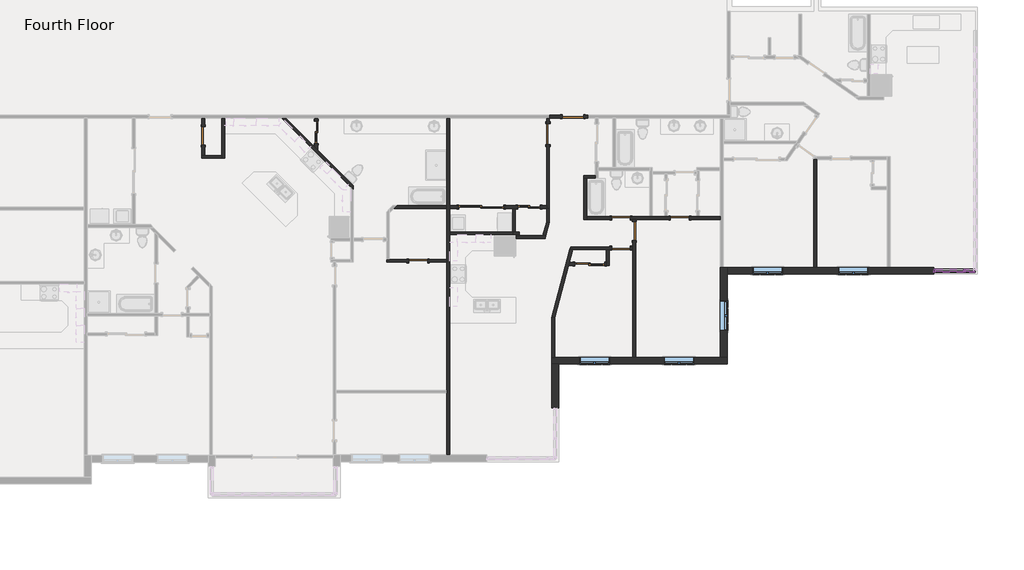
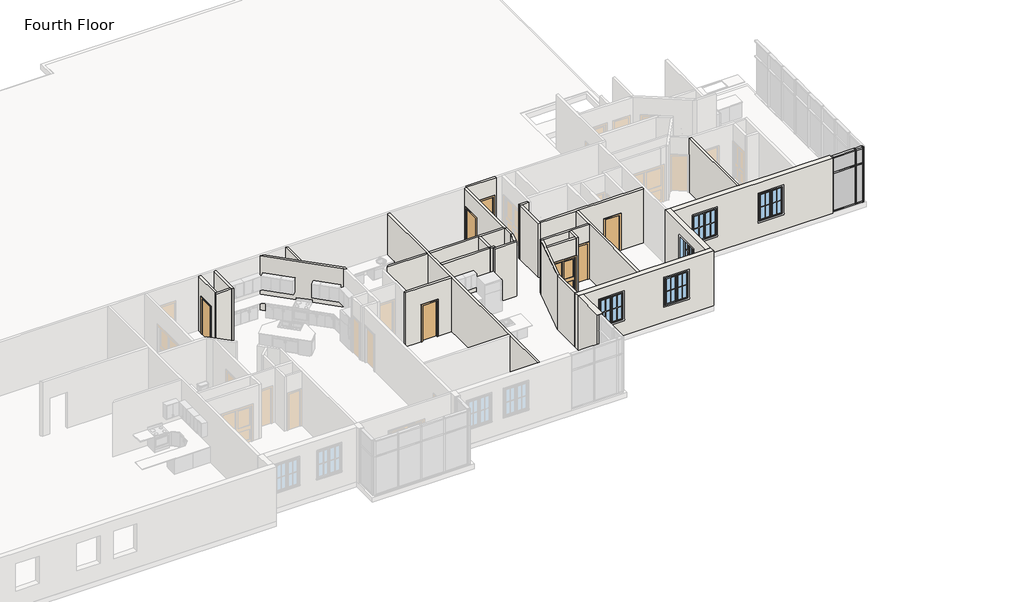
# One storey, part 5 of 17: 32 walls, 12 doors, 12 members, 5 windows, 4 plates.
"""IFC4 building model written with IfcOpenShell, lengths in millimetres."""

from ifc_helpers import new_model, si_unit, frame, origin, place, context, project, spatial, polyline, outline, extrude, faceted_brep, transform, mapped, element, save
from components import door_d8f5dbb5, door_f2b275c1, door_825b8444, door_c29894e6, door_88c23cd7, door_900f836f, door_caaf2a11, rectangular_mullion_rectangular_mullion_1_fa3625a1, rectangular_mullion_rectangular_mullion_1_7cbf0b94, rectangular_mullion_rectangular_mullion_1_6186cc23, rectangular_mullion_rectangular_mullion_1_049a2e78, rectangular_mullion_rectangular_mullion_1_a50b3cda, rectangular_mullion_rectangular_mullion_1_5cd4c5ac, rectangular_mullion_rectangular_mullion_1_64aff199, rectangular_mullion_rectangular_mullion_1_b6c962ab, system_panel_glazed_0ed27d1d, system_panel_glazed_134bacdb, system_panel_glazed_a3383988, system_panel_glazed_d9a092fd, window_33528cc2

model = new_model("IFC4")

# Units and contexts
model_context = context("Model", 3, world=origin())
ifc_project = project(units=[si_unit("LENGTHUNIT", "METRE", prefix="MILLI")], contexts=[model_context])

# Site, building, storey
site = spatial("IfcSite", under=ifc_project)
building = spatial("IfcBuilding", under=site)
storey = spatial("IfcBuildingStorey", under=building, Name="Fourth Floor", Elevation=9144.0)

# Doors
placement = place(None, origin())
door_shape = door_d8f5dbb5(model_context)
element("IfcDoor", 1, ObjectType="Single-Flush : 30\" x 80\"", at=placement, inside=storey, context=model_context, shape_type="MappedRepresentation", body=[
    mapped(door_shape, transform((40944.0341819, -10517.1896208, 9144.0), x_axis=(1.0, 0.0, 0.0), y_axis=(0.0, 1.0, 0.0), z_axis=(0.0, 0.0, 1.0))),
])
element("IfcDoor", 2, ObjectType="Single-Flush : 30\" x 80\"", at=placement, inside=storey, context=model_context, shape_type="MappedRepresentation", body=[
    mapped(door_shape, transform((32213.1466966, -5438.7917963, 9144.0), x_axis=(0.0, 1.0, 0.0), y_axis=(-1.0, 0.0, 0.0), z_axis=(0.0, 0.0, 1.0))),
])
door_2_shape = door_f2b275c1(model_context)
element("IfcDoor", 3, ObjectType="Single-Flush : 30\" x 80\"", at=placement, inside=storey, context=model_context, shape_type="MappedRepresentation", body=[
    mapped(door_2_shape, transform((49185.2164857, -10003.6934793, 9144.0), x_axis=(1.0, 0.0, 0.0), y_axis=(0.0, 1.0, 0.0), z_axis=(0.0, 0.0, 1.0))),
])
element("IfcDoor", 4, ObjectType="Single-Flush : 30\" x 80\"", at=placement, inside=storey, context=model_context, shape_type="MappedRepresentation", body=[
    mapped(door_2_shape, transform((49722.0869446, -9306.0763206, 9144.0), x_axis=(0.0, 1.0, 0.0), y_axis=(-1.0, 0.0, 0.0), z_axis=(0.0, 0.0, 1.0))),
])
element("IfcDoor", 5, ObjectType="Single-Flush : 30\" x 80\"", at=placement, inside=storey, context=model_context, shape_type="MappedRepresentation", body=[
    mapped(door_2_shape, transform((51578.0008306, -8772.6763206, 9144.0), x_axis=(-1.0, 0.0, 0.0), y_axis=(0.0, -1.0, 0.0), z_axis=(0.0, 0.0, 1.0))),
])
element("IfcDoor", 6, ObjectType="Single-Flush : 30\" x 80\"", at=placement, inside=storey, context=model_context, shape_type="MappedRepresentation", body=[
    mapped(door_2_shape, transform((49188.6869446, -8772.6763206, 9144.0), x_axis=(-1.0, 0.0, 0.0), y_axis=(0.0, -1.0, 0.0), z_axis=(0.0, 0.0, 1.0))),
])
door_3_shape = door_825b8444(model_context)
element("IfcDoor", 7, ObjectType="Single-Flush : 34\" x 80\"", at=placement, inside=storey, context=model_context, shape_type="MappedRepresentation", body=[
    mapped(door_3_shape, transform((47235.4550668, -4651.3917963, 9144.0), x_axis=(1.0, 0.0, 0.0), y_axis=(0.0, 1.0, 0.0), z_axis=(0.0, 0.0, 1.0))),
])
door_4_shape = door_c29894e6(model_context)
element("IfcDoor", 8, ObjectType="Single-Flush : 34\" x 80\"", at=placement, inside=storey, context=model_context, shape_type="MappedRepresentation", body=[
    mapped(door_4_shape, transform((46219.4550668, -5362.5917963, 9144.0), x_axis=(0.0, 1.0, 0.0), y_axis=(-1.0, 0.0, 0.0), z_axis=(0.0, 0.0, 1.0))),
])
door_5_shape = door_88c23cd7(model_context)
element("IfcDoor", 9, ObjectType="Sliding-Closet : 36\" x 80\"", at=placement, inside=storey, context=model_context, shape_type="MappedRepresentation", body=[
    mapped(door_5_shape, transform((45452.5275875, -8462.220689, 9144.0), x_axis=(1.0, 0.0, 0.0), y_axis=(0.0, 1.0, 0.0), z_axis=(0.0, 0.0, 1.0))),
])
element("IfcDoor", 10, ObjectType="Sliding-Closet : 36\" x 80\"", at=placement, inside=storey, context=model_context, shape_type="MappedRepresentation", body=[
    mapped(door_5_shape, transform((36679.0005062, -5286.3917963, 9144.0), x_axis=(0.0, -1.0, 0.0), y_axis=(1.0, 0.0, 0.0), z_axis=(0.0, 0.0, 1.0))),
])
door_6_shape = door_900f836f(model_context)
element("IfcDoor", 11, ObjectType="Sliding-Closet : 48\" x 80\"", at=placement, inside=storey, context=model_context, shape_type="MappedRepresentation", body=[
    mapped(door_6_shape, transform((47911.7460269, -10519.7402375, 9144.0), x_axis=(-1.0, 0.0, 0.0), y_axis=(0.0, -1.0, 0.0), z_axis=(0.0, 0.0, 1.0))),
])
door_7_shape = door_caaf2a11(model_context)
element("IfcDoor", 12, ObjectType="Sliding-Closet : 72\" x 80\"", at=placement, inside=storey, context=model_context, shape_type="MappedRepresentation", body=[
    mapped(door_7_shape, transform((43502.5485687, -8462.220689, 9144.0), x_axis=(1.0, 0.0, 0.0), y_axis=(0.0, 1.0, 0.0), z_axis=(0.0, 0.0, 1.0))),
])

# Members
rectangular_mullion_rectangular_mullion_1_shape = rectangular_mullion_rectangular_mullion_1_fa3625a1(model_context)
element("IfcMember", 13, ObjectType="Rectangular Mullion : Rectangular Mullion 1", at=placement, inside=storey, context=model_context, shape_type="MappedRepresentation", body=[
    mapped(rectangular_mullion_rectangular_mullion_1_shape, transform((63120.5712707, -10920.5254097, 12192.0), x_axis=(0.0, 0.0, 1.0), y_axis=(0.0, -1.0, 0.0), z_axis=(1.0, 0.0, 0.0))),
])
element("IfcMember", 14, ObjectType="Rectangular Mullion : Rectangular Mullion 1", at=placement, inside=storey, context=model_context, shape_type="MappedRepresentation", body=[
    mapped(rectangular_mullion_rectangular_mullion_1_shape, transform((61964.8712704, -10920.5254097, 9144.0), x_axis=(0.0, 0.0, -1.0), y_axis=(0.0, -1.0, 0.0), z_axis=(-1.0, 0.0, 0.0))),
])
rectangular_mullion_rectangular_mullion_1_2_shape = rectangular_mullion_rectangular_mullion_1_7cbf0b94(model_context)
element("IfcMember", 15, ObjectType="Rectangular Mullion : Rectangular Mullion 1", at=placement, inside=storey, context=model_context, shape_type="MappedRepresentation", body=[
    mapped(rectangular_mullion_rectangular_mullion_1_2_shape, transform((63120.5712707, -10920.5254097, 11309.35), x_axis=(0.0, 0.0, 1.0), y_axis=(0.0, -1.0, 0.0), z_axis=(1.0, 0.0, 0.0))),
])
rectangular_mullion_rectangular_mullion_1_3_shape = rectangular_mullion_rectangular_mullion_1_6186cc23(model_context)
element("IfcMember", 16, ObjectType="Rectangular Mullion : Rectangular Mullion 1", at=placement, inside=storey, context=model_context, shape_type="MappedRepresentation", body=[
    mapped(rectangular_mullion_rectangular_mullion_1_3_shape, transform((63152.3212707, -10920.5254097, 9144.0), x_axis=(1.0, 0.0, 0.0), y_axis=(0.0, -1.0, 0.0), z_axis=(0.0, 0.0, -1.0))),
])
rectangular_mullion_rectangular_mullion_1_4_shape = rectangular_mullion_rectangular_mullion_1_049a2e78(model_context)
element("IfcMember", 17, ObjectType="Rectangular Mullion : Rectangular Mullion 1", at=placement, inside=storey, context=model_context, shape_type="MappedRepresentation", body=[
    mapped(rectangular_mullion_rectangular_mullion_1_4_shape, transform((63152.3212707, -10920.5254097, 11309.35), x_axis=(1.0, 0.0, 0.0), y_axis=(0.0, -1.0, 0.0), z_axis=(0.0, 0.0, -1.0))),
])
rectangular_mullion_rectangular_mullion_1_5_shape = rectangular_mullion_rectangular_mullion_1_a50b3cda(model_context)
element("IfcMember", 18, ObjectType="Rectangular Mullion : Rectangular Mullion 1", at=placement, inside=storey, context=model_context, shape_type="MappedRepresentation", body=[
    mapped(rectangular_mullion_rectangular_mullion_1_5_shape, transform((63577.7712704, -10920.5254097, 9144.0), x_axis=(1.0, 0.0, 0.0), y_axis=(0.0, -1.0, 0.0), z_axis=(0.0, 0.0, -1.0))),
])
rectangular_mullion_rectangular_mullion_1_6_shape = rectangular_mullion_rectangular_mullion_1_5cd4c5ac(model_context)
element("IfcMember", 19, ObjectType="Rectangular Mullion : Rectangular Mullion 1", at=placement, inside=storey, context=model_context, shape_type="MappedRepresentation", body=[
    mapped(rectangular_mullion_rectangular_mullion_1_6_shape, transform((63577.7712704, -10920.5254097, 11309.35), x_axis=(1.0, 0.0, 0.0), y_axis=(0.0, -1.0, 0.0), z_axis=(0.0, 0.0, -1.0))),
])
element("IfcMember", 20, ObjectType="Rectangular Mullion : Rectangular Mullion 1", at=placement, inside=storey, context=model_context, shape_type="MappedRepresentation", body=[
    mapped(rectangular_mullion_rectangular_mullion_1_6_shape, transform((61901.3712704, -10920.5254097, 12192.0), x_axis=(-1.0, 0.0, 0.0), y_axis=(0.0, -1.0, 0.0), z_axis=(0.0, 0.0, 1.0))),
])
element("IfcMember", 21, ObjectType="Rectangular Mullion : Rectangular Mullion 1", at=placement, inside=storey, context=model_context, shape_type="MappedRepresentation", body=[
    mapped(rectangular_mullion_rectangular_mullion_1_5_shape, transform((61901.3712704, -10920.5254097, 11309.35), x_axis=(-1.0, 0.0, 0.0), y_axis=(0.0, -1.0, 0.0), z_axis=(0.0, 0.0, 1.0))),
])
rectangular_mullion_rectangular_mullion_1_7_shape = rectangular_mullion_rectangular_mullion_1_64aff199(model_context)
element("IfcMember", 22, ObjectType="Rectangular Mullion : Rectangular Mullion 1", at=placement, inside=storey, context=model_context, shape_type="MappedRepresentation", body=[
    mapped(rectangular_mullion_rectangular_mullion_1_7_shape, transform((63514.2712704, -10920.5254097, 12192.0), x_axis=(0.0, 0.0, 1.0), y_axis=(0.0, -1.0, 0.0), z_axis=(1.0, 0.0, 0.0))),
])
element("IfcMember", 23, ObjectType="Rectangular Mullion : Rectangular Mullion 1", at=placement, inside=storey, context=model_context, shape_type="MappedRepresentation", body=[
    mapped(rectangular_mullion_rectangular_mullion_1_7_shape, transform((63184.0712707, -10920.5254097, 9144.0), x_axis=(0.0, 0.0, -1.0), y_axis=(0.0, -1.0, 0.0), z_axis=(-1.0, 0.0, 0.0))),
])
rectangular_mullion_rectangular_mullion_1_8_shape = rectangular_mullion_rectangular_mullion_1_b6c962ab(model_context)
element("IfcMember", 24, ObjectType="Rectangular Mullion : Rectangular Mullion 1", at=placement, inside=storey, context=model_context, shape_type="MappedRepresentation", body=[
    mapped(rectangular_mullion_rectangular_mullion_1_8_shape, transform((63514.2712704, -10920.5254097, 11309.35), x_axis=(0.0, 0.0, 1.0), y_axis=(0.0, -1.0, 0.0), z_axis=(1.0, 0.0, 0.0))),
])

# Plates
system_panel_glazed_shape = system_panel_glazed_0ed27d1d(model_context)
element("IfcPlate", 25, ObjectType="System Panel : Glazed", at=placement, inside=storey, context=model_context, shape_type="MappedRepresentation", body=[
    mapped(system_panel_glazed_shape, transform((62542.7212705, -10920.5254097, 9207.5), x_axis=(1.0, 0.0, 0.0), y_axis=(0.0, 1.0, 0.0), z_axis=(0.0, 0.0, 1.0))),
])
system_panel_glazed_2_shape = system_panel_glazed_134bacdb(model_context)
element("IfcPlate", 26, ObjectType="System Panel : Glazed", at=placement, inside=storey, context=model_context, shape_type="MappedRepresentation", body=[
    mapped(system_panel_glazed_2_shape, transform((62542.7212705, -10920.5254097, 11341.1), x_axis=(1.0, 0.0, 0.0), y_axis=(0.0, 1.0, 0.0), z_axis=(0.0, 0.0, 1.0))),
])
system_panel_glazed_3_shape = system_panel_glazed_a3383988(model_context)
element("IfcPlate", 27, ObjectType="System Panel : Glazed", at=placement, inside=storey, context=model_context, shape_type="MappedRepresentation", body=[
    mapped(system_panel_glazed_3_shape, transform((63349.1712705, -10920.5254097, 9207.5), x_axis=(1.0, 0.0, 0.0), y_axis=(0.0, 1.0, 0.0), z_axis=(0.0, 0.0, 1.0))),
])
system_panel_glazed_4_shape = system_panel_glazed_d9a092fd(model_context)
element("IfcPlate", 28, ObjectType="System Panel : Glazed", at=placement, inside=storey, context=model_context, shape_type="MappedRepresentation", body=[
    mapped(system_panel_glazed_4_shape, transform((63349.1712705, -10920.5254097, 11341.1), x_axis=(1.0, 0.0, 0.0), y_axis=(0.0, 1.0, 0.0), z_axis=(0.0, 0.0, 1.0))),
])

# Walls
element("IfcWall", 29, ObjectType="Exterior - Brick on Wood Stud", at=placement, inside=storey, context=model_context, shape_type="Brep", body=[
    faceted_brep([(46370.0422255, -14719.4129097, 9144.0), (46652.6172255, -14719.4129097, 9144.0), (53508.2587704, -14719.4129097, 9144.0), (53508.2587704, -14719.4129097, 12192.0), (46652.6172255, -14719.4129097, 12192.0), (46370.0422255, -14719.4129097, 12192.0), (50934.9291075, -14719.4129097, 11582.4), (52154.1291075, -14719.4129097, 11582.4), (52154.1291075, -14719.4129097, 10058.4), (50934.9291075, -14719.4129097, 10058.4), (47507.1083351, -14719.4129097, 11582.4), (48726.3083351, -14719.4129097, 11582.4), (48726.3083351, -14719.4129097, 10058.4), (47507.1083351, -14719.4129097, 10058.4), (46370.0422255, -14436.8379097, 9144.0), (46370.0422255, -14436.8379097, 12192.0), (46484.3422255, -14436.8379097, 12192.0), (49664.9369446, -14436.8379097, 12192.0), (49779.2369446, -14436.8379097, 12192.0), (53225.6837704, -14436.8379097, 12192.0), (53508.2587704, -14436.8379097, 12192.0), (53508.2587704, -14436.8379097, 9144.0), (53225.6837704, -14436.8379097, 9144.0), (49779.2369446, -14436.8379097, 9144.0), (49664.9369446, -14436.8379097, 9144.0), (46484.3422255, -14436.8379097, 9144.0), (50934.9291075, -14436.8379097, 11582.4), (50934.9291075, -14436.8379097, 10058.4), (52154.1291075, -14436.8379097, 10058.4), (52154.1291075, -14436.8379097, 11582.4), (47507.1083351, -14436.8379097, 11582.4), (47507.1083351, -14436.8379097, 10058.4), (48726.3083351, -14436.8379097, 10058.4), (48726.3083351, -14436.8379097, 11582.4)], [[[0, 1, 2, 3, 4, 5], [6, 7, 8, 9], [10, 11, 12, 13]], [[14, 15, 16, 17, 18, 19, 20, 21, 22, 23, 24, 25], [26, 27, 28, 29], [30, 31, 32, 33]], [[2, 1, 0, 14, 25, 24, 23, 22, 21]], [[5, 4, 3, 20, 19, 18, 17, 16, 15]], [[27, 26, 6, 9]], [[28, 27, 9, 8]], [[29, 28, 8, 7]], [[26, 29, 7, 6]], [[31, 30, 10, 13]], [[32, 31, 13, 12]], [[33, 32, 12, 11]], [[30, 33, 11, 10]], [[0, 5, 15, 14]], [[3, 2, 21, 20]]]),
])
element("IfcWall", 30, ObjectType="Exterior - Brick on Wood Stud", at=placement, inside=storey, context=model_context, shape_type="Brep", body=[
    faceted_brep([(53508.2587704, -14436.8379097, 9144.0), (53508.2587704, -11061.8129097, 9144.0), (53508.2587704, -10779.2379097, 9144.0), (53508.2587704, -10779.2379097, 12192.0), (53508.2587704, -11061.8129097, 12192.0), (53508.2587704, -14436.8379097, 12192.0), (53508.2587704, -13358.9254097, 11582.4), (53508.2587704, -12139.7254097, 11582.4), (53508.2587704, -12139.7254097, 10058.4), (53508.2587704, -13358.9254097, 10058.4), (53225.6837704, -14436.8379097, 9144.0), (53225.6837704, -14436.8379097, 12192.0), (53225.6837704, -10779.2379097, 12192.0), (53225.6837704, -10779.2379097, 9144.0), (53225.6837704, -13358.9254097, 11582.4), (53225.6837704, -13358.9254097, 10058.4), (53225.6837704, -12139.7254097, 10058.4), (53225.6837704, -12139.7254097, 11582.4), (53339.9837704, -10779.2379097, 9144.0), (53339.9837704, -10779.2379097, 12192.0)], [[[0, 1, 2, 3, 4, 5], [6, 7, 8, 9]], [[10, 11, 12, 13], [14, 15, 16, 17]], [[2, 1, 0, 10, 13, 18]], [[5, 4, 3, 19, 12, 11]], [[15, 14, 6, 9]], [[16, 15, 9, 8]], [[17, 16, 8, 7]], [[14, 17, 7, 6]], [[3, 2, 18, 13, 12, 19]], [[0, 5, 11, 10]]]),
])
element("IfcWall", 31, ObjectType="Exterior - Brick on Wood Stud", at=placement, inside=storey, context=model_context, shape_type="Brep", body=[
    faceted_brep([(53508.2587704, -11061.8129097, 9144.0), (61901.3712704, -11061.8129097, 9144.0), (61901.3712704, -11061.8129097, 12192.0), (53508.2587704, -11061.8129097, 12192.0), (58021.3646499, -11061.8129097, 11582.4), (59240.5646499, -11061.8129097, 11582.4), (59240.5646499, -11061.8129097, 10058.4), (58021.3646499, -11061.8129097, 10058.4), (54535.3712704, -11061.8129097, 11582.4), (55754.5712704, -11061.8129097, 11582.4), (55754.5712704, -11061.8129097, 10058.4), (54535.3712704, -11061.8129097, 10058.4), (53508.2587704, -10779.2379097, 9144.0), (53508.2587704, -10779.2379097, 12192.0), (57029.5575892, -10779.2379097, 12192.0), (57143.8575892, -10779.2379097, 12192.0), (60016.4717107, -10779.2379097, 12192.0), (60130.7717107, -10779.2379097, 12192.0), (61901.3712704, -10779.2379097, 12192.0), (61901.3712704, -10779.2379097, 9144.0), (60130.7717107, -10779.2379097, 9144.0), (60016.4717107, -10779.2379097, 9144.0), (57143.8575892, -10779.2379097, 9144.0), (57029.5575892, -10779.2379097, 9144.0), (58021.3646499, -10779.2379097, 11582.4), (58021.3646499, -10779.2379097, 10058.4), (59240.5646499, -10779.2379097, 10058.4), (59240.5646499, -10779.2379097, 11582.4), (54535.3712704, -10779.2379097, 11582.4), (54535.3712704, -10779.2379097, 10058.4), (55754.5712704, -10779.2379097, 10058.4), (55754.5712704, -10779.2379097, 11582.4)], [[[0, 1, 2, 3], [4, 5, 6, 7], [8, 9, 10, 11]], [[12, 13, 14, 15, 16, 17, 18, 19, 20, 21, 22, 23], [24, 25, 26, 27], [28, 29, 30, 31]], [[1, 0, 12, 23, 22, 21, 20, 19]], [[2, 1, 19, 18]], [[3, 2, 18, 17, 16, 15, 14, 13]], [[25, 24, 4, 7]], [[26, 25, 7, 6]], [[27, 26, 6, 5]], [[24, 27, 5, 4]], [[29, 28, 8, 11]], [[30, 29, 11, 10]], [[31, 30, 10, 9]], [[28, 31, 9, 8]], [[0, 3, 13, 12]]]),
])
element("IfcWall", 32, ObjectType="Exterior - Brick on Wood Stud", at=placement, inside=storey, context=model_context, shape_type="SweptSolid", body=[
    extrude(outline(polyline([(46652.6172255, -14719.4129097), (46652.6172255, -16495.3488497), (46370.0422255, -16495.3488497), (46370.0422255, -14719.4129097), (46652.6172255, -14719.4129097)])), frame((0.0, 0.0, 9144.0), z_axis=(0.0, 0.0, 1.0), x_axis=(1.0, 0.0, 0.0)), (0.0, 0.0, 1.0), 3048.0),
])
element("IfcWall", 33, ObjectType="Interior - 4 1/2\" Partition", at=placement, inside=storey, context=model_context, shape_type="Brep", body=[
    faceted_brep([(42109.9470292, -4708.5417963, 9144.0), (42109.9470292, -8278.070689, 9144.0), (42109.9470292, -8392.370689, 9144.0), (42109.9470292, -10460.0396208, 9144.0), (42109.9470292, -10574.3396208, 9144.0), (42109.9470292, -15784.9064679, 9144.0), (42109.9470292, -15899.2064679, 9144.0), (42109.9470292, -18414.3743072, 9144.0), (42109.9470292, -18414.3743072, 12192.0), (42109.9470292, -15899.2064679, 12192.0), (42109.9470292, -15784.9064679, 12192.0), (42109.9470292, -10574.3396208, 12192.0), (42109.9470292, -10460.0396208, 12192.0), (42109.9470292, -8392.370689, 12192.0), (42109.9470292, -8278.070689, 12192.0), (42109.9470292, -4708.5417963, 12192.0), (42224.2470292, -4708.5417963, 9144.0), (42224.2470292, -4708.5417963, 12192.0), (42224.2470292, -8278.070689, 12192.0), (42224.2470292, -8392.370689, 12192.0), (42224.2470292, -9338.0876998, 12192.0), (42224.2470292, -9452.3876998, 12192.0), (42224.2470292, -18414.3743072, 12192.0), (42224.2470292, -18414.3743072, 9144.0), (42224.2470292, -9452.3876998, 9144.0), (42224.2470292, -9338.0876998, 9144.0), (42224.2470292, -8392.370689, 9144.0), (42224.2470292, -8278.070689, 9144.0)], [[[0, 1, 2, 3, 4, 5, 6, 7, 8, 9, 10, 11, 12, 13, 14, 15]], [[16, 17, 18, 19, 20, 21, 22, 23, 24, 25, 26, 27]], [[7, 6, 5, 4, 3, 2, 1, 0, 16, 27, 26, 25, 24, 23]], [[15, 14, 13, 12, 11, 10, 9, 8, 22, 21, 20, 19, 18, 17]], [[0, 15, 17, 16]], [[8, 7, 23, 22]]]),
])
element("IfcWall", 34, ObjectType="Interior - 4 1/2\" Partition", at=placement, inside=storey, context=model_context, shape_type="Brep", body=[
    faceted_brep([(38310.9505062, -7451.1325257, 9144.0), (36863.1505062, -6003.3325257, 9144.0), (36748.8505062, -5889.0325257, 9144.0), (35568.3597768, -4708.5417963, 9144.0), (35568.3597768, -4708.5417963, 12192.0), (36748.8505062, -5889.0325257, 12192.0), (36863.1505062, -6003.3325257, 12192.0), (38310.9505062, -7451.1325257, 12192.0), (38310.9505062, -7612.7771359, 9144.0), (38310.9505062, -7612.7771359, 12192.0), (38196.6505062, -7498.4771359, 12192.0), (35406.7151666, -4708.5417963, 12192.0), (35406.7151666, -4708.5417963, 9144.0), (38196.6505062, -7498.4771359, 9144.0)], [[[0, 1, 2, 3, 4, 5, 6, 7]], [[8, 9, 10, 11, 12, 13]], [[3, 2, 1, 0, 8, 13, 12]], [[7, 6, 5, 4, 11, 10, 9]], [[0, 7, 9, 8]], [[4, 3, 12, 11]]]),
])
element("IfcWall", 35, ObjectType="Interior - 4 1/2\" Partition", at=placement, inside=storey, context=model_context, shape_type="Brep", body=[
    faceted_brep([(42109.9470292, -10460.0396208, 9144.0), (41325.0341819, -10460.0396208, 9144.0), (41325.0341819, -10460.0396208, 11176.0), (40563.0341819, -10460.0396208, 11176.0), (40563.0341819, -10460.0396208, 9144.0), (39778.1213345, -10460.0396208, 9144.0), (39663.8213345, -10460.0396208, 9144.0), (39663.8213345, -10460.0396208, 12192.0), (39778.1213345, -10460.0396208, 12192.0), (42109.9470292, -10460.0396208, 12192.0), (41325.0341819, -10574.3396208, 11176.0), (41325.0341819, -10574.3396208, 9144.0), (42109.9470292, -10574.3396208, 9144.0), (42109.9470292, -10574.3396208, 12192.0), (39663.8213345, -10574.3396208, 12192.0), (39663.8213345, -10574.3396208, 9144.0), (40563.0341819, -10574.3396208, 9144.0), (40563.0341819, -10574.3396208, 11176.0)], [[[0, 1, 2, 3, 4, 5, 6, 7, 8, 9]], [[10, 11, 12, 13, 14, 15, 16, 17]], [[16, 15, 6, 5, 4]], [[12, 11, 1, 0]], [[9, 8, 7, 14, 13]], [[2, 1, 11, 10]], [[3, 2, 10, 17]], [[4, 3, 17, 16]], [[7, 6, 15, 14]], [[0, 9, 13, 12]]]),
])
element("IfcWall", 36, ObjectType="Interior - 4 1/2\" Partition", at=placement, inside=storey, context=model_context, shape_type="SweptSolid", body=[
    extrude(outline(polyline([(42109.9470292, -8392.370689), (39960.1697865, -8392.370689), (40074.4697865, -8278.070689), (42109.9470292, -8278.070689), (42109.9470292, -8392.370689)])), frame((0.0, 0.0, 9144.0), z_axis=(0.0, 0.0, 1.0), x_axis=(1.0, 0.0, 0.0)), (0.0, 0.0, 1.0), 3048.0),
])
element("IfcWall", 37, ObjectType="Interior - 4 1/2\" Partition", at=placement, inside=storey, context=model_context, shape_type="Brep", body=[
    faceted_brep([(32968.7966966, -4708.5417963, 9144.0), (32968.7966966, -6227.7127707, 9144.0), (32968.7966966, -6342.0127707, 9144.0), (32968.7966966, -6342.0127707, 12192.0), (32968.7966966, -6227.7127707, 12192.0), (32968.7966966, -4708.5417963, 12192.0), (33083.0966966, -4708.5417963, 9144.0), (33083.0966966, -4708.5417963, 12192.0), (33083.0966966, -6342.0127707, 12192.0), (33083.0966966, -6342.0127707, 9144.0)], [[[0, 1, 2, 3, 4, 5]], [[6, 7, 8, 9]], [[2, 1, 0, 6, 9]], [[5, 4, 3, 8, 7]], [[3, 2, 9, 8]], [[0, 5, 7, 6]]]),
])
element("IfcWall", 38, ObjectType="Interior - 4 1/2\" Partition", at=placement, inside=storey, context=model_context, shape_type="Brep", body=[
    faceted_brep([(32968.7966966, -6227.7127707, 9144.0), (32270.2966966, -6227.7127707, 9144.0), (32155.9966966, -6227.7127707, 9144.0), (32155.9966966, -6227.7127707, 12192.0), (32270.2966966, -6227.7127707, 12192.0), (32968.7966966, -6227.7127707, 12192.0), (32968.7966966, -6342.0127707, 9144.0), (32968.7966966, -6342.0127707, 12192.0), (32155.9966966, -6342.0127707, 12192.0), (32155.9966966, -6342.0127707, 9144.0)], [[[0, 1, 2, 3, 4, 5]], [[6, 7, 8, 9]], [[2, 1, 0, 6, 9]], [[5, 4, 3, 8, 7]], [[3, 2, 9, 8]], [[0, 5, 7, 6]]]),
])
element("IfcWall", 39, ObjectType="Interior - 4 1/2\" Partition", at=placement, inside=storey, context=model_context, shape_type="SweptSolid", body=[
    extrude(outline(polyline([(-4708.5417963, 9144.0), (-5057.7917963, 9144.0), (-5057.7917963, 11176.0), (-5819.7917963, 11176.0), (-5819.7917963, 9144.0), (-6227.7127707, 9144.0), (-6227.7127707, 12192.0), (-4708.5417963, 12192.0), (-4708.5417963, 9144.0)])), frame((32155.9966966, 0.0, 0.0), z_axis=(1.0, 0.0, 0.0), x_axis=(0.0, 1.0, 0.0)), (0.0, 0.0, 1.0), 114.3),
])
element("IfcWall", 40, ObjectType="Interior - 4 1/2\" Partition", at=placement, inside=storey, context=model_context, shape_type="Brep", body=[
    faceted_brep([(46162.3050668, -4708.5417963, 9144.0), (46162.3050668, -4930.7917963, 9144.0), (46162.3050668, -4930.7917963, 11176.0), (46162.3050668, -5794.3917963, 11176.0), (46162.3050668, -5794.3917963, 9144.0), (46162.3050668, -8278.070689, 9144.0), (46162.3050668, -8392.370689, 9144.0), (46162.3050668, -8392.370689, 12192.0), (46162.3050668, -8278.070689, 12192.0), (46162.3050668, -4708.5417963, 12192.0), (46276.6050668, -4930.7917963, 11176.0), (46276.6050668, -4930.7917963, 9144.0), (46276.6050668, -4708.5417963, 9144.0), (46276.6050668, -4708.5417963, 12192.0), (46276.6050668, -8392.370689, 12192.0), (46276.6050668, -8392.370689, 9144.0), (46276.6050668, -5794.3917963, 9144.0), (46276.6050668, -5794.3917963, 11176.0)], [[[0, 1, 2, 3, 4, 5, 6, 7, 8, 9]], [[10, 11, 12, 13, 14, 15, 16, 17]], [[16, 15, 6, 5, 4]], [[12, 11, 1, 0]], [[9, 8, 7, 14, 13]], [[2, 1, 11, 10]], [[3, 2, 10, 17]], [[4, 3, 17, 16]], [[7, 6, 15, 14]], [[0, 9, 13, 12]]]),
])
element("IfcWall", 41, ObjectType="Interior - 4 1/2\" Partition", at=placement, inside=storey, context=model_context, shape_type="SweptSolid", body=[
    extrude(outline(polyline([(11176.0, 47667.2550668), (9144.0, 47667.2550668), (9144.0, 47845.0550668), (12192.0, 47845.0550668), (12192.0, 46276.6050668), (9144.0, 46276.6050668), (9144.0, 46803.6550668), (11176.0, 46803.6550668), (11176.0, 47667.2550668)])), frame((0.0, -4708.5417963, 0.0), z_axis=(0.0, 1.0, 0.0), x_axis=(0.0, 0.0, 1.0)), (0.0, 0.0, 1.0), 114.3),
])
element("IfcWall", 42, ObjectType="Interior - 4 1/2\" Partition", at=placement, inside=storey, context=model_context, shape_type="Brep", body=[
    faceted_brep([(46162.3050668, -8278.070689, 9144.0), (45909.7275875, -8278.070689, 9144.0), (45909.7275875, -8278.070689, 11176.0), (44995.3275875, -8278.070689, 11176.0), (44995.3275875, -8278.070689, 9144.0), (44416.9485687, -8278.070689, 9144.0), (44416.9485687, -8278.070689, 11176.0), (42588.1485687, -8278.070689, 11176.0), (42588.1485687, -8278.070689, 9144.0), (42224.2470292, -8278.070689, 9144.0), (42224.2470292, -8278.070689, 12192.0), (46162.3050668, -8278.070689, 12192.0), (45909.7275875, -8392.370689, 11176.0), (45909.7275875, -8392.370689, 9144.0), (46162.3050668, -8392.370689, 9144.0), (46162.3050668, -8392.370689, 12192.0), (44895.1501082, -8392.370689, 12192.0), (44780.8501082, -8392.370689, 12192.0), (42224.2470292, -8392.370689, 12192.0), (42224.2470292, -8392.370689, 9144.0), (42588.1485687, -8392.370689, 9144.0), (42588.1485687, -8392.370689, 11176.0), (44416.9485687, -8392.370689, 11176.0), (44416.9485687, -8392.370689, 9144.0), (44780.8501082, -8392.370689, 9144.0), (44895.1501082, -8392.370689, 9144.0), (44995.3275875, -8392.370689, 9144.0), (44995.3275875, -8392.370689, 11176.0)], [[[0, 1, 2, 3, 4, 5, 6, 7, 8, 9, 10, 11]], [[12, 13, 14, 15, 16, 17, 18, 19, 20, 21, 22, 23, 24, 25, 26, 27]], [[20, 19, 9, 8]], [[14, 13, 1, 0]], [[26, 25, 24, 23, 5, 4]], [[11, 10, 18, 17, 16, 15]], [[8, 7, 21, 20]], [[6, 5, 23, 22]], [[7, 6, 22, 21]], [[4, 3, 27, 26]], [[2, 1, 13, 12]], [[3, 2, 12, 27]], [[0, 11, 15, 14]], [[10, 9, 19, 18]]]),
])
element("IfcWall", 43, ObjectType="Interior - 4 1/2\" Partition", at=placement, inside=storey, context=model_context, shape_type="SweptSolid", body=[
    extrude(outline(polyline([(46162.3050668, -8935.5417122), (46162.3050668, -8392.370689), (46276.6050668, -8392.370689), (46276.6050668, -8950.5895927), (46162.3050668, -8935.5417122)])), frame((0.0, 0.0, 9144.0), z_axis=(0.0, 0.0, 1.0), x_axis=(1.0, 0.0, 0.0)), (0.0, 0.0, 1.0), 3048.0),
])
element("IfcWall", 44, ObjectType="Interior - 4 1/2\" Partition", at=placement, inside=storey, context=model_context, shape_type="Brep", body=[
    faceted_brep([(46131.0628298, -9493.760616, 9144.0), (46012.7307624, -9493.760616, 9144.0), (45047.5501082, -9493.760616, 9144.0), (44933.2501082, -9493.760616, 9144.0), (44933.2501082, -9493.760616, 12192.0), (45047.5501082, -9493.760616, 12192.0), (46012.7307624, -9493.760616, 12192.0), (46131.0628298, -9493.760616, 12192.0), (46100.4362371, -9608.060616, 9144.0), (46100.4362371, -9608.060616, 12192.0), (44933.2501082, -9608.060616, 12192.0), (44933.2501082, -9608.060616, 9144.0)], [[[0, 1, 2, 3, 4, 5, 6, 7]], [[8, 9, 10, 11]], [[3, 2, 1, 0, 8, 11]], [[7, 6, 5, 4, 10, 9]], [[0, 7, 9, 8]], [[4, 3, 11, 10]]]),
])
element("IfcWall", 45, ObjectType="Interior - 4 1/2\" Partition", at=placement, inside=storey, context=model_context, shape_type="SweptSolid", body=[
    extrude(outline(polyline([(45047.5501082, -9452.3876998), (45047.5501082, -9493.760616), (44933.2501082, -9493.760616), (44933.2501082, -9452.3876998), (45047.5501082, -9452.3876998)])), frame((0.0, 0.0, 9144.0), z_axis=(0.0, 0.0, 1.0), x_axis=(1.0, 0.0, 0.0)), (0.0, 0.0, 1.0), 3048.0),
])
element("IfcWall", 46, ObjectType="Interior - 4 1/2\" Partition", at=placement, inside=storey, context=model_context, shape_type="Brep", body=[
    faceted_brep([(45047.5501082, -9338.0876998, 9144.0), (44895.1501082, -9338.0876998, 9144.0), (44780.8501082, -9338.0876998, 9144.0), (44780.8501082, -9338.0876998, 12192.0), (44895.1501082, -9338.0876998, 12192.0), (45047.5501082, -9338.0876998, 12192.0), (45047.5501082, -9452.3876998, 9144.0), (45047.5501082, -9452.3876998, 12192.0), (44933.2501082, -9452.3876998, 12192.0), (44780.8501082, -9452.3876998, 12192.0), (44780.8501082, -9452.3876998, 9144.0), (44933.2501082, -9452.3876998, 9144.0)], [[[0, 1, 2, 3, 4, 5]], [[6, 7, 8, 9, 10, 11]], [[2, 1, 0, 6, 11, 10]], [[5, 4, 3, 9, 8, 7]], [[3, 2, 10, 9]], [[0, 5, 7, 6]]]),
])
element("IfcWall", 47, ObjectType="Interior - 4 1/2\" Partition", at=placement, inside=storey, context=model_context, shape_type="SweptSolid", body=[
    extrude(outline(polyline([(44895.1501082, -8392.370689), (44895.1501082, -9338.0876998), (44780.8501082, -9338.0876998), (44780.8501082, -8392.370689), (44895.1501082, -8392.370689)])), frame((0.0, 0.0, 9144.0), z_axis=(0.0, 0.0, 1.0), x_axis=(1.0, 0.0, 0.0)), (0.0, 0.0, 1.0), 3048.0),
])
element("IfcWall", 48, ObjectType="Interior - 4 1/2\" Partition", at=placement, inside=storey, context=model_context, shape_type="Brep", body=[
    faceted_brep([(48143.5050668, -7042.3192831, 9144.0), (47676.7960269, -7042.3192831, 9144.0), (47676.7960269, -7042.3192831, 12192.0), (48143.5050668, -7042.3192831, 12192.0), (48143.5050668, -7156.6192831, 9144.0), (48143.5050668, -7156.6192831, 12192.0), (47791.0960269, -7156.6192831, 12192.0), (47676.7960269, -7156.6192831, 12192.0), (47676.7960269, -7156.6192831, 9144.0), (47791.0960269, -7156.6192831, 9144.0)], [[[0, 1, 2, 3]], [[4, 5, 6, 7, 8, 9]], [[1, 0, 4, 9, 8]], [[3, 2, 7, 6, 5]], [[2, 1, 8, 7]], [[0, 3, 5, 4]]]),
])
element("IfcWall", 49, ObjectType="Interior - 4 1/2\" Partition", at=placement, inside=storey, context=model_context, shape_type="Brep", body=[
    faceted_brep([(47676.7960269, -7156.6192831, 9144.0), (47676.7960269, -8829.8263206, 9144.0), (47676.7960269, -8829.8263206, 12192.0), (47676.7960269, -7156.6192831, 12192.0), (47791.0960269, -7156.6192831, 9144.0), (47791.0960269, -7156.6192831, 12192.0), (47791.0960269, -8715.5263206, 12192.0), (47791.0960269, -8829.8263206, 12192.0), (47791.0960269, -8829.8263206, 9144.0), (47791.0960269, -8715.5263206, 9144.0)], [[[0, 1, 2, 3]], [[4, 5, 6, 7, 8, 9]], [[1, 0, 4, 9, 8]], [[3, 2, 7, 6, 5]], [[2, 1, 8, 7]], [[0, 3, 5, 4]]]),
])
element("IfcWall", 50, ObjectType="Interior - 4 1/2\" Partition", at=placement, inside=storey, context=model_context, shape_type="Brep", body=[
    faceted_brep([(47791.0960269, -8829.8263206, 9144.0), (48807.6869446, -8829.8263206, 9144.0), (48807.6869446, -8829.8263206, 11176.0), (49569.6869446, -8829.8263206, 11176.0), (49569.6869446, -8829.8263206, 9144.0), (49664.9369446, -8829.8263206, 9144.0), (49779.2369446, -8829.8263206, 9144.0), (51197.0008306, -8829.8263206, 9144.0), (51197.0008306, -8829.8263206, 11176.0), (51959.0008306, -8829.8263206, 11176.0), (51959.0008306, -8829.8263206, 9144.0), (53225.6837704, -8829.8263206, 9144.0), (53225.6837704, -8829.8263206, 12192.0), (49779.2369446, -8829.8263206, 12192.0), (49664.9369446, -8829.8263206, 12192.0), (47791.0960269, -8829.8263206, 12192.0), (48807.6869446, -8715.5263206, 11176.0), (48807.6869446, -8715.5263206, 9144.0), (47791.0960269, -8715.5263206, 9144.0), (47791.0960269, -8715.5263206, 12192.0), (50352.4508306, -8715.5263206, 12192.0), (50466.7508306, -8715.5263206, 12192.0), (50962.0508306, -8715.5263206, 12192.0), (51076.3508306, -8715.5263206, 12192.0), (52256.4979881, -8715.5263206, 12192.0), (52370.7979881, -8715.5263206, 12192.0), (53225.6837704, -8715.5263206, 12192.0), (53225.6837704, -8715.5263206, 9144.0), (52370.7979881, -8715.5263206, 9144.0), (52256.4979881, -8715.5263206, 9144.0), (51959.0008306, -8715.5263206, 9144.0), (51959.0008306, -8715.5263206, 11176.0), (51197.0008306, -8715.5263206, 11176.0), (51197.0008306, -8715.5263206, 9144.0), (51076.3508306, -8715.5263206, 9144.0), (50962.0508306, -8715.5263206, 9144.0), (50466.7508306, -8715.5263206, 9144.0), (50352.4508306, -8715.5263206, 9144.0), (49569.6869446, -8715.5263206, 9144.0), (49569.6869446, -8715.5263206, 11176.0)], [[[0, 1, 2, 3, 4, 5, 6, 7, 8, 9, 10, 11, 12, 13, 14, 15]], [[16, 17, 18, 19, 20, 21, 22, 23, 24, 25, 26, 27, 28, 29, 30, 31, 32, 33, 34, 35, 36, 37, 38, 39]], [[30, 29, 28, 27, 11, 10]], [[18, 17, 1, 0]], [[38, 37, 36, 35, 34, 33, 7, 6, 5, 4]], [[15, 14, 13, 12, 26, 25, 24, 23, 22, 21, 20, 19]], [[8, 7, 33, 32]], [[9, 8, 32, 31]], [[10, 9, 31, 30]], [[2, 1, 17, 16]], [[3, 2, 16, 39]], [[4, 3, 39, 38]], [[0, 15, 19, 18]], [[12, 11, 27, 26]]]),
])
element("IfcWall", 51, ObjectType="Interior - 4 1/2\" Partition", at=placement, inside=storey, context=model_context, shape_type="Brep", body=[
    faceted_brep([(49779.2369446, -8925.0763206, 11176.0), (49779.2369446, -8925.0763206, 9144.0), (49779.2369446, -8829.8263206, 9144.0), (49779.2369446, -8829.8263206, 12192.0), (49779.2369446, -14436.8379097, 12192.0), (49779.2369446, -14436.8379097, 9144.0), (49779.2369446, -9687.0763206, 9144.0), (49779.2369446, -9687.0763206, 11176.0), (49664.9369446, -8829.8263206, 9144.0), (49664.9369446, -8925.0763206, 9144.0), (49664.9369446, -8925.0763206, 11176.0), (49664.9369446, -9687.0763206, 11176.0), (49664.9369446, -9687.0763206, 9144.0), (49664.9369446, -9946.5434793, 9144.0), (49664.9369446, -10060.8434793, 9144.0), (49664.9369446, -14436.8379097, 9144.0), (49664.9369446, -14436.8379097, 12192.0), (49664.9369446, -10060.8434793, 12192.0), (49664.9369446, -9946.5434793, 12192.0), (49664.9369446, -8829.8263206, 12192.0)], [[[0, 1, 2, 3, 4, 5, 6, 7]], [[8, 9, 10, 11, 12, 13, 14, 15, 16, 17, 18, 19]], [[6, 5, 15, 14, 13, 12]], [[2, 1, 9, 8]], [[4, 3, 19, 18, 17, 16]], [[10, 9, 1, 0]], [[11, 10, 0, 7]], [[12, 11, 7, 6]], [[3, 2, 8, 19]], [[5, 4, 16, 15]]]),
])
element("IfcWall", 52, ObjectType="Interior - 4 1/2\" Partition", at=placement, inside=storey, context=model_context, shape_type="Brep", body=[
    faceted_brep([(49664.9369446, -9946.5434793, 9144.0), (49566.2164857, -9946.5434793, 9144.0), (49566.2164857, -9946.5434793, 11176.0), (48804.2164857, -9946.5434793, 11176.0), (48804.2164857, -9946.5434793, 9144.0), (47138.2342072, -9946.5434793, 9144.0), (47138.2342072, -9946.5434793, 12192.0), (49664.9369446, -9946.5434793, 12192.0), (49566.2164857, -10060.8434793, 11176.0), (49566.2164857, -10060.8434793, 9144.0), (49664.9369446, -10060.8434793, 9144.0), (49664.9369446, -10060.8434793, 12192.0), (48705.4960269, -10060.8434793, 12192.0), (48591.1960269, -10060.8434793, 12192.0), (47225.9396819, -10060.8434793, 12192.0), (47107.6076145, -10060.8434793, 12192.0), (47107.6076145, -10060.8434793, 9144.0), (47225.9396819, -10060.8434793, 9144.0), (48591.1960269, -10060.8434793, 9144.0), (48705.4960269, -10060.8434793, 9144.0), (48804.2164857, -10060.8434793, 9144.0), (48804.2164857, -10060.8434793, 11176.0)], [[[0, 1, 2, 3, 4, 5, 6, 7]], [[8, 9, 10, 11, 12, 13, 14, 15, 16, 17, 18, 19, 20, 21]], [[10, 9, 1, 0]], [[20, 19, 18, 17, 16, 5, 4]], [[7, 6, 15, 14, 13, 12, 11]], [[2, 1, 9, 8]], [[3, 2, 8, 21]], [[4, 3, 21, 20]], [[6, 5, 16, 15]], [[0, 7, 11, 10]]]),
])
element("IfcWall", 53, ObjectType="Interior - 4 1/2\" Partition", at=placement, inside=storey, context=model_context, shape_type="Brep", body=[
    faceted_brep([(46484.3422255, -12828.5228654, 9144.0), (47053.6358224, -10703.8902375, 9144.0), (47084.2624151, -10589.5902375, 9144.0), (47225.9396819, -10060.8434793, 9144.0), (47225.9396819, -10060.8434793, 12192.0), (47084.2624151, -10589.5902375, 12192.0), (47053.6358224, -10703.8902375, 12192.0), (46484.3422255, -12828.5228654, 12192.0), (46370.0422255, -12813.4749849, 9144.0), (46370.0422255, -12813.4749849, 12192.0), (47107.6076145, -10060.8434793, 12192.0), (47107.6076145, -10060.8434793, 9144.0)], [[[0, 1, 2, 3, 4, 5, 6, 7]], [[8, 9, 10, 11]], [[3, 2, 1, 0, 8, 11]], [[7, 6, 5, 4, 10, 9]], [[0, 7, 9, 8]], [[4, 3, 11, 10]]]),
])
element("IfcWall", 54, ObjectType="Interior - 4 1/2\" Partition", at=placement, inside=storey, context=model_context, shape_type="Brep", body=[
    faceted_brep([(48591.1960269, -10060.8434793, 9144.0), (48591.1960269, -10589.5902375, 9144.0), (48591.1960269, -10703.8902375, 9144.0), (48591.1960269, -10703.8902375, 12192.0), (48591.1960269, -10589.5902375, 12192.0), (48591.1960269, -10060.8434793, 12192.0), (48705.4960269, -10060.8434793, 9144.0), (48705.4960269, -10060.8434793, 12192.0), (48705.4960269, -10703.8902375, 12192.0), (48705.4960269, -10703.8902375, 9144.0)], [[[0, 1, 2, 3, 4, 5]], [[6, 7, 8, 9]], [[2, 1, 0, 6, 9]], [[5, 4, 3, 8, 7]], [[3, 2, 9, 8]], [[0, 5, 7, 6]]]),
])
element("IfcWall", 55, ObjectType="Interior - 4 1/2\" Partition", at=placement, inside=storey, context=model_context, shape_type="Brep", body=[
    faceted_brep([(47302.1460269, -10589.5902375, 11176.0), (47302.1460269, -10589.5902375, 9144.0), (47084.2624151, -10589.5902375, 9144.0), (47084.2624151, -10589.5902375, 12192.0), (48591.1960269, -10589.5902375, 12192.0), (48591.1960269, -10589.5902375, 9144.0), (48521.3460269, -10589.5902375, 9144.0), (48521.3460269, -10589.5902375, 11176.0), (47053.6358224, -10703.8902375, 9144.0), (47302.1460269, -10703.8902375, 9144.0), (47302.1460269, -10703.8902375, 11176.0), (48521.3460269, -10703.8902375, 11176.0), (48521.3460269, -10703.8902375, 9144.0), (48591.1960269, -10703.8902375, 9144.0), (48591.1960269, -10703.8902375, 12192.0), (47053.6358224, -10703.8902375, 12192.0)], [[[0, 1, 2, 3, 4, 5, 6, 7]], [[8, 9, 10, 11, 12, 13, 14, 15]], [[6, 5, 13, 12]], [[2, 1, 9, 8]], [[4, 3, 15, 14]], [[12, 11, 7, 6]], [[10, 9, 1, 0]], [[11, 10, 0, 7]], [[5, 4, 14, 13]], [[3, 2, 8, 15]]]),
])
element("IfcWall", 56, ObjectType="Interior - 4 1/2\" Partition", at=placement, inside=storey, context=model_context, shape_type="SweptSolid", body=[
    extrude(outline(polyline([(57029.5575892, -10779.2379097), (57029.5575892, -6397.5056742), (57143.8575892, -6397.5056742), (57143.8575892, -10779.2379097), (57029.5575892, -10779.2379097)])), frame((0.0, 0.0, 9144.0), z_axis=(0.0, 0.0, 1.0), x_axis=(1.0, 0.0, 0.0)), (0.0, 0.0, 1.0), 3048.0),
])
element("IfcWall", 57, ObjectType="Interior - 4 1/2\" Partition", at=placement, inside=storey, context=model_context, shape_type="SweptSolid", body=[
    extrude(outline(polyline([(42224.2470292, -9338.0876998), (44780.8501082, -9338.0876998), (44780.8501082, -9452.3876998), (42224.2470292, -9452.3876998), (42224.2470292, -9338.0876998)])), frame((0.0, 0.0, 9144.0), z_axis=(0.0, 0.0, 1.0), x_axis=(1.0, 0.0, 0.0)), (0.0, 0.0, 1.0), 3048.0),
])
element("IfcWall", 58, ObjectType="Interior - 4 1/2\" Partition", at=placement, inside=storey, context=model_context, shape_type="SweptSolid", body=[
    extrude(outline(polyline([(46012.7307624, -9493.760616), (46162.3050668, -8935.5417122), (46276.6050668, -8950.5895927), (46131.0628298, -9493.760616), (46012.7307624, -9493.760616)])), frame((0.0, 0.0, 9144.0), z_axis=(0.0, 0.0, 1.0), x_axis=(1.0, 0.0, 0.0)), (0.0, 0.0, 1.0), 3048.0),
])
element("IfcWall", 59, ObjectType="Interior - 4 1/2\" Partition", at=placement, inside=storey, context=model_context, shape_type="SweptSolid", body=[
    extrude(outline(polyline([(46484.3422255, -12828.5228654), (46484.3422255, -14436.8379097), (46370.0422255, -14436.8379097), (46370.0422255, -12813.4749849), (46484.3422255, -12828.5228654)])), frame((0.0, 0.0, 9144.0), z_axis=(0.0, 0.0, 1.0), x_axis=(1.0, 0.0, 0.0)), (0.0, 0.0, 1.0), 3048.0),
])
element("IfcWall", 60, ObjectType="Interior - 4 1/2\" Partition", at=placement, inside=storey, context=model_context, shape_type="Brep", body=[
    faceted_brep([(36748.8505062, -5743.5917963, 11176.0), (36748.8505062, -5743.5917963, 9144.0), (36748.8505062, -5889.0325257, 9144.0), (36748.8505062, -5889.0325257, 12192.0), (36748.8505062, -4708.5417963, 12192.0), (36748.8505062, -4708.5417963, 9144.0), (36748.8505062, -4829.1917963, 9144.0), (36748.8505062, -4829.1917963, 11176.0), (36863.1505062, -6003.3325257, 9144.0), (36863.1505062, -5743.5917963, 9144.0), (36863.1505062, -5743.5917963, 11176.0), (36863.1505062, -4829.1917963, 11176.0), (36863.1505062, -4829.1917963, 9144.0), (36863.1505062, -4708.5417963, 9144.0), (36863.1505062, -4708.5417963, 12192.0), (36863.1505062, -6003.3325257, 12192.0)], [[[0, 1, 2, 3, 4, 5, 6, 7]], [[8, 9, 10, 11, 12, 13, 14, 15]], [[6, 5, 13, 12]], [[2, 1, 9, 8]], [[4, 3, 15, 14]], [[12, 11, 7, 6]], [[10, 9, 1, 0]], [[11, 10, 0, 7]], [[3, 2, 8, 15]], [[5, 4, 14, 13]]]),
])

# Windows
window_shape = window_33528cc2(model_context)
element("IfcWindow", 61, ObjectType="Window-Casement-Double : 48\" x 60\"", at=placement, inside=storey, context=model_context, shape_type="MappedRepresentation", body=[
    mapped(window_shape, transform((53366.9712704, -12749.3254097, 9144.0), x_axis=(0.0, -1.0, 0.0), y_axis=(1.0, 0.0, 0.0), z_axis=(0.0, 0.0, 1.0))),
])
element("IfcWindow", 62, ObjectType="Window-Casement-Double : 48\" x 60\"", at=placement, inside=storey, context=model_context, shape_type="MappedRepresentation", body=[
    mapped(window_shape, transform((51544.5291075, -14578.1254097, 9144.0), x_axis=(-1.0, 0.0, 0.0), y_axis=(0.0, -1.0, 0.0), z_axis=(0.0, 0.0, 1.0))),
])
element("IfcWindow", 63, ObjectType="Window-Casement-Double : 48\" x 60\"", at=placement, inside=storey, context=model_context, shape_type="MappedRepresentation", body=[
    mapped(window_shape, transform((48116.7083351, -14578.1254097, 9144.0), x_axis=(-1.0, 0.0, 0.0), y_axis=(0.0, -1.0, 0.0), z_axis=(0.0, 0.0, 1.0))),
])
element("IfcWindow", 64, ObjectType="Window-Casement-Double : 48\" x 60\"", at=placement, inside=storey, context=model_context, shape_type="MappedRepresentation", body=[
    mapped(window_shape, transform((58630.9646499, -10920.5254097, 9144.0), x_axis=(-1.0, 0.0, 0.0), y_axis=(0.0, -1.0, 0.0), z_axis=(0.0, 0.0, 1.0))),
])
element("IfcWindow", 65, ObjectType="Window-Casement-Double : 48\" x 60\"", at=placement, inside=storey, context=model_context, shape_type="MappedRepresentation", body=[
    mapped(window_shape, transform((55144.9712704, -10920.5254097, 9144.0), x_axis=(-1.0, 0.0, 0.0), y_axis=(0.0, -1.0, 0.0), z_axis=(0.0, 0.0, 1.0))),
])

save(model, "model.ifc")
